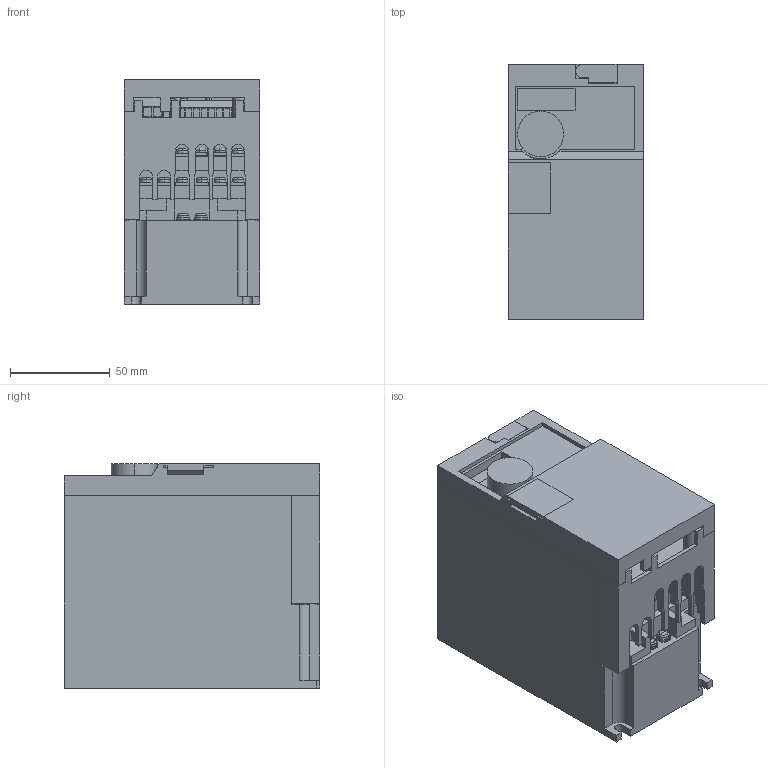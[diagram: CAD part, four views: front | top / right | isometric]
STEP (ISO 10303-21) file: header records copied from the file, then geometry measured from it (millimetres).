
FILE_DESCRIPTION((''),'2;1');
FILE_NAME('3D-INV-21_04_ASM','2010-09-06T',('HW41538'),(''),'PRO/ENGINEER BY PARAMETRIC TECHNOLOGY CORPORATION, 2006420','PRO/ENGINEER BY PARAMETRIC TECHNOLOGY CORPORATION, 2006420','');
FILE_SCHEMA(('CONFIG_CONTROL_DESIGN'));
Length unit declared in the file: millimetre
Products named in the file (13): 3D-BASE-21_03; 3D-E70-TA; 3D-POWER-21_04_ASM; 3D-SW-PW-P-M3_5X10; 3D-TE_SHORT-21_04; 3D-TE_NEJI-M3_5X8-ZA7; 3D-TE_NEJI-21_04_ASM; 3D-SEN_COV-21_04; 3D-COV-E7; 3D-IF_COV-E7; 3D-USB_COV-E7; 3D-COV_ASSY-E7_ASM; 3D-INV-21_04_ASM
Assembly tree (22 placements, depth 3):
  3D-INV-21_04_ASM
    3D-POWER-21_04_ASM
      3D-BASE-21_03
      3D-E70-TA
    3D-SW-PW-P-M3_5X10  x2
    3D-TE_NEJI-21_04_ASM
      3D-TE_SHORT-21_04
      3D-TE_NEJI-M3_5X8-ZA7  x10
    3D-SEN_COV-21_04
    3D-COV_ASSY-E7_ASM
      3D-COV-E7
      3D-IF_COV-E7
      3D-USB_COV-E7
Bounding box: 68 x 128 x 112.5 mm (x, y, z)
Volume: 783396.5 mm3; surface area: 118712.5 mm2
Topology: 19 solids, 19 shells, 805 faces, 2033 edges, 1335 vertices
Faces by surface type: plane 641, cylinder 126, torus 26, cone 6, sphere 6
Entity records: 20670 total; most frequent: CARTESIAN_POINT 3643, ORIENTED_EDGE 3490, DIRECTION 3365, EDGE_CURVE 1745, VECTOR 1549, LINE 1549, VERTEX_POINT 1154, AXIS2_PLACEMENT_3D 908
